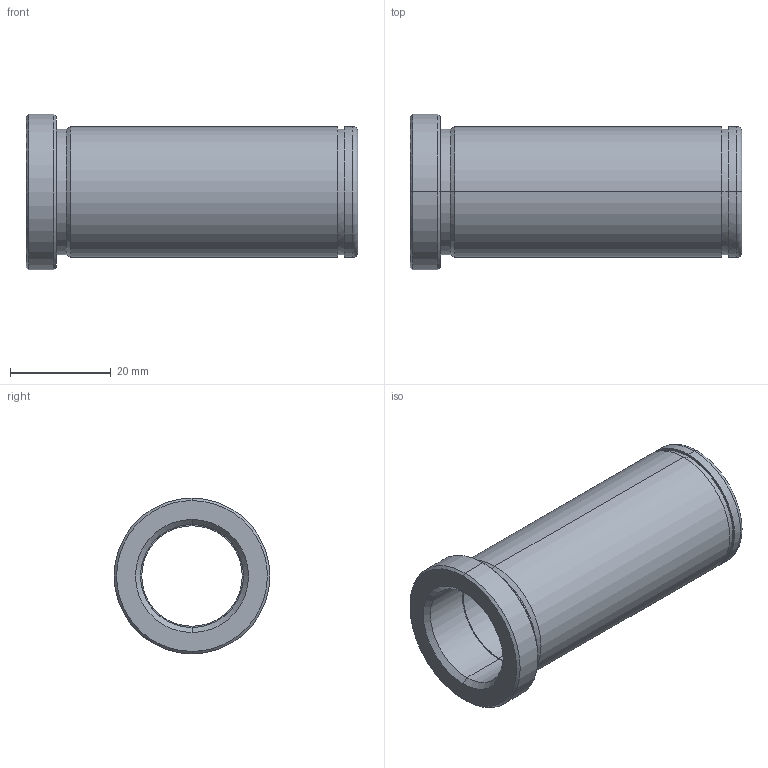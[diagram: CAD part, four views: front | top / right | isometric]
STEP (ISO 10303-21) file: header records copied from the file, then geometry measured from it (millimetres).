
FILE_DESCRIPTION(('CATIA V5 STEP Exchange'),'2;1');
FILE_NAME('C:\Users\Utente\Desktop\IO LAVORO\3D X SITO CF\X SITO\PLASTICA\553\553-20X66.stp','2021-05-23T18:07:01+00:00',('none'),('none'),'CATIA Version 5 Release 20 GA (IN-10)','CATIA V5 STEP AP203','none');
FILE_SCHEMA(('CONFIG_CONTROL_DESIGN'));
Length unit declared in the file: millimetre
Products named in the file (1): 553-20X66
Bounding box: 66 x 31 x 31 mm (x, y, z)
Volume: 15235.2 mm3; surface area: 10479.1 mm2
Topology: 1 solids, 1 shells, 32 faces, 102 edges, 76 vertices
Faces by surface type: cylinder 14, cone 8, plane 6, torus 4
Entity records: 1334 total; most frequent: CARTESIAN_POINT 389, ORIENTED_EDGE 204, DIRECTION 152, EDGE_CURVE 102, AXIS2_PLACEMENT_3D 99, VERTEX_POINT 76, CIRCLE 66, EDGE_LOOP 38
